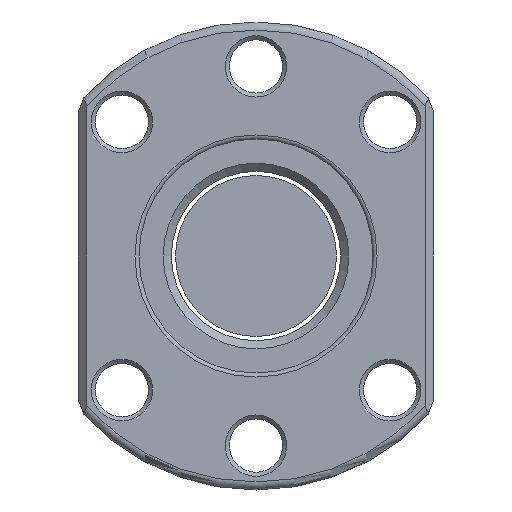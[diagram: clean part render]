
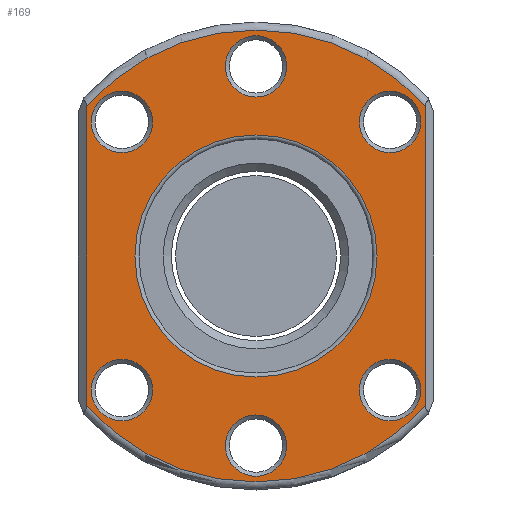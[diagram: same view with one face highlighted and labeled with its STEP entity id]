
A CAD part, front view. The second image highlights one B-rep face of the part: STEP entity #169.
In plain terms, the highlighted planar face has unit normal (0, -1, 0).
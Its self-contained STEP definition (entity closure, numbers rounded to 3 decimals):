
#60=LINE('',#1137,#84);
#61=LINE('',#1141,#85);
#84=VECTOR('',#920,1.);
#85=VECTOR('',#923,1.);
#132=PLANE('',#802);
#169=ADVANCED_FACE('',(#234,#235,#236,#237,#238,#239,#240,#241),#132,.T.);
#234=FACE_BOUND('',#314,.T.);
#235=FACE_BOUND('',#315,.T.);
#236=FACE_BOUND('',#316,.T.);
#237=FACE_BOUND('',#317,.T.);
#238=FACE_BOUND('',#318,.T.);
#239=FACE_BOUND('',#319,.T.);
#240=FACE_BOUND('',#320,.T.);
#241=FACE_BOUND('',#321,.T.);
#314=EDGE_LOOP('',(#410));
#315=EDGE_LOOP('',(#411));
#316=EDGE_LOOP('',(#412));
#317=EDGE_LOOP('',(#413));
#318=EDGE_LOOP('',(#414));
#319=EDGE_LOOP('',(#415));
#320=EDGE_LOOP('',(#416));
#321=EDGE_LOOP('',(#417,#418,#419,#420));
#410=ORIENTED_EDGE('',*,*,#653,.T.);
#411=ORIENTED_EDGE('',*,*,#654,.T.);
#412=ORIENTED_EDGE('',*,*,#655,.T.);
#413=ORIENTED_EDGE('',*,*,#656,.T.);
#414=ORIENTED_EDGE('',*,*,#657,.T.);
#415=ORIENTED_EDGE('',*,*,#658,.T.);
#416=ORIENTED_EDGE('',*,*,#659,.T.);
#417=ORIENTED_EDGE('',*,*,#660,.T.);
#418=ORIENTED_EDGE('',*,*,#661,.T.);
#419=ORIENTED_EDGE('',*,*,#662,.T.);
#420=ORIENTED_EDGE('',*,*,#663,.T.);
#582=VERTEX_POINT('',#1121);
#583=VERTEX_POINT('',#1123);
#584=VERTEX_POINT('',#1125);
#585=VERTEX_POINT('',#1127);
#586=VERTEX_POINT('',#1129);
#587=VERTEX_POINT('',#1131);
#588=VERTEX_POINT('',#1133);
#589=VERTEX_POINT('',#1135);
#590=VERTEX_POINT('',#1136);
#591=VERTEX_POINT('',#1138);
#592=VERTEX_POINT('',#1140);
#653=EDGE_CURVE('',#582,#582,#740,.T.);
#654=EDGE_CURVE('',#583,#583,#741,.T.);
#655=EDGE_CURVE('',#584,#584,#742,.T.);
#656=EDGE_CURVE('',#585,#585,#743,.T.);
#657=EDGE_CURVE('',#586,#586,#744,.T.);
#658=EDGE_CURVE('',#587,#587,#745,.T.);
#659=EDGE_CURVE('',#588,#588,#746,.T.);
#660=EDGE_CURVE('',#589,#590,#747,.T.);
#661=EDGE_CURVE('',#590,#591,#60,.T.);
#662=EDGE_CURVE('',#591,#592,#748,.T.);
#663=EDGE_CURVE('',#592,#589,#61,.T.);
#740=CIRCLE('',#793,15.);
#741=CIRCLE('',#794,3.8);
#742=CIRCLE('',#795,3.8);
#743=CIRCLE('',#796,3.8);
#744=CIRCLE('',#797,3.8);
#745=CIRCLE('',#798,3.8);
#746=CIRCLE('',#799,3.8);
#747=CIRCLE('',#800,28.);
#748=CIRCLE('',#801,28.);
#793=AXIS2_PLACEMENT_3D('',#1120,#904,#905);
#794=AXIS2_PLACEMENT_3D('',#1122,#906,#907);
#795=AXIS2_PLACEMENT_3D('',#1124,#908,#909);
#796=AXIS2_PLACEMENT_3D('',#1126,#910,#911);
#797=AXIS2_PLACEMENT_3D('',#1128,#912,#913);
#798=AXIS2_PLACEMENT_3D('',#1130,#914,#915);
#799=AXIS2_PLACEMENT_3D('',#1132,#916,#917);
#800=AXIS2_PLACEMENT_3D('',#1134,#918,#919);
#801=AXIS2_PLACEMENT_3D('',#1139,#921,#922);
#802=AXIS2_PLACEMENT_3D('',#1142,#924,#925);
#904=DIRECTION('',(0.,1.,0.));
#905=DIRECTION('',(0.,0.,-1.));
#906=DIRECTION('',(0.,1.,0.));
#907=DIRECTION('',(0.,0.,-1.));
#908=DIRECTION('',(0.,1.,0.));
#909=DIRECTION('',(0.,0.,-1.));
#910=DIRECTION('',(0.,1.,0.));
#911=DIRECTION('',(0.,0.,-1.));
#912=DIRECTION('',(0.,1.,0.));
#913=DIRECTION('',(0.,0.,-1.));
#914=DIRECTION('',(0.,1.,0.));
#915=DIRECTION('',(0.,0.,-1.));
#916=DIRECTION('',(0.,1.,0.));
#917=DIRECTION('',(0.,0.,-1.));
#918=DIRECTION('',(0.,-1.,0.));
#919=DIRECTION('',(0.,0.,-1.));
#920=DIRECTION('',(0.,0.,-1.));
#921=DIRECTION('',(0.,-1.,0.));
#922=DIRECTION('',(0.,0.,-1.));
#923=DIRECTION('',(0.,0.,1.));
#924=DIRECTION('',(0.,-1.,0.));
#925=DIRECTION('',(0.,0.,-1.));
#1120=CARTESIAN_POINT('',(0.,0.,0.));
#1121=CARTESIAN_POINT('',(0.,0.,-15.));
#1122=CARTESIAN_POINT('',(0.,0.,-23.5));
#1123=CARTESIAN_POINT('',(0.,0.,-27.3));
#1124=CARTESIAN_POINT('',(-16.617,0.,-16.617));
#1125=CARTESIAN_POINT('',(-16.617,0.,-20.417));
#1126=CARTESIAN_POINT('',(-16.617,0.,16.617));
#1127=CARTESIAN_POINT('',(-16.617,0.,12.817));
#1128=CARTESIAN_POINT('',(0.,0.,23.5));
#1129=CARTESIAN_POINT('',(0.,0.,19.7));
#1130=CARTESIAN_POINT('',(16.617,0.,16.617));
#1131=CARTESIAN_POINT('',(16.617,0.,12.817));
#1132=CARTESIAN_POINT('',(16.617,0.,-16.617));
#1133=CARTESIAN_POINT('',(16.617,0.,-20.417));
#1134=CARTESIAN_POINT('',(0.,0.,0.));
#1135=CARTESIAN_POINT('',(21.,0.,18.52));
#1136=CARTESIAN_POINT('',(-21.,0.,18.52));
#1137=CARTESIAN_POINT('',(-21.,0.,-17.321));
#1138=CARTESIAN_POINT('',(-21.,0.,-18.52));
#1139=CARTESIAN_POINT('',(0.,0.,0.));
#1140=CARTESIAN_POINT('',(21.,0.,-18.52));
#1141=CARTESIAN_POINT('',(21.,0.,17.321));
#1142=CARTESIAN_POINT('',(0.,0.,0.));
